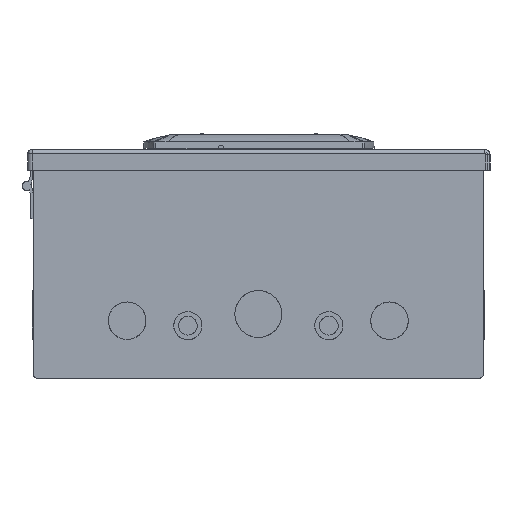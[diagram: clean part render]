
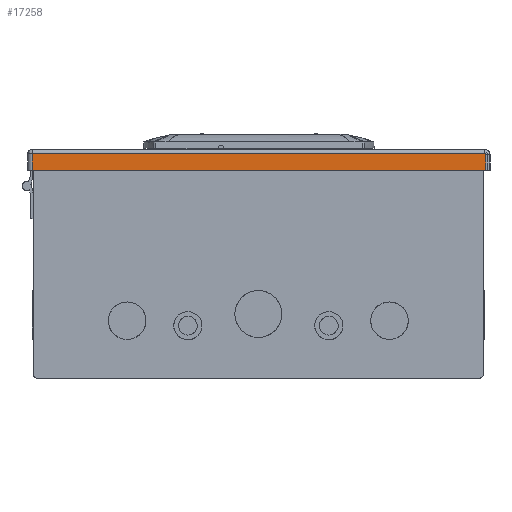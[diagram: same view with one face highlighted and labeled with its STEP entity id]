
A CAD part, front view. The second image highlights one B-rep face of the part: STEP entity #17258.
In plain terms, the highlighted planar face has unit normal (0, 1, 0).
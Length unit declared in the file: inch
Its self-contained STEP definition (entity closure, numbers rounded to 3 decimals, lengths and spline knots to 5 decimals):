
#469 = EDGE_CURVE ( 'NONE', #28884, #42171, #19894, .T. ) ;
#2453 = CARTESIAN_POINT ( 'NONE',  ( 3.52084, -6.17472, 2.93589 ) ) ;
#4203 = AXIS2_PLACEMENT_3D ( 'NONE', #48283, #10922, #7780 ) ;
#6337 = CARTESIAN_POINT ( 'NONE',  ( 3.53941, -6.17472, 2.9151 ) ) ;
#6415 = CARTESIAN_POINT ( 'NONE',  ( 3.53941, -6.17472, -3.05305 ) ) ;
#7776 = B_SPLINE_CURVE_WITH_KNOTS ( 'NONE', 3,
 ( #46610, #13329, #49485, #2453, #33152, #46147, #46374, #25318, #30128, #30809, #35568, #50547, #21730, #49023, #6337, #36070 ),
 .UNSPECIFIED., .F., .F.,
 ( 4, 1, 2, 2, 2, 1, 2, 2, 4 ),
 ( 0., 0.125, 0.1875, 0.25, 0.5, 0.625, 0.6875, 0.75, 1. ),
 .UNSPECIFIED. ) ;
#7780 = DIRECTION ( 'NONE',  ( 0., 0., 1. ) ) ;
#7801 = CARTESIAN_POINT ( 'NONE',  ( 3.53941, -6.17472, 2.48665 ) ) ;
#10858 = EDGE_CURVE ( 'NONE', #16771, #11222, #7776, .T. ) ;
#10922 = DIRECTION ( 'NONE',  ( 0., 1., 0. ) ) ;
#11222 = VERTEX_POINT ( 'NONE', #44177 ) ;
#12848 = LINE ( 'NONE', #18181, #34149 ) ;
#13329 = CARTESIAN_POINT ( 'NONE',  ( 3.51628, -6.17472, 2.93665 ) ) ;
#16399 = LINE ( 'NONE', #49140, #41965 ) ;
#16771 = VERTEX_POINT ( 'NONE', #33350 ) ;
#17258 = ADVANCED_FACE ( 'NONE', ( #36321 ), #39421, .T. ) ;
#17277 = EDGE_CURVE ( 'NONE', #11222, #28884, #32381, .T. ) ;
#18015 = DIRECTION ( 'NONE',  ( 1., 0., 0. ) ) ;
#18181 = CARTESIAN_POINT ( 'NONE',  ( -2.53057, -6.17472, 2.93665 ) ) ;
#19565 = DIRECTION ( 'NONE',  ( -1., 0., 0. ) ) ;
#19894 = LINE ( 'NONE', #26132, #20203 ) ;
#20203 = VECTOR ( 'NONE', #19565, 39.37008 ) ;
#21730 = CARTESIAN_POINT ( 'NONE',  ( 3.53739, -6.17472, 2.92177 ) ) ;
#22838 = EDGE_CURVE ( 'NONE', #42171, #50844, #16399, .T. ) ;
#23710 = ORIENTED_EDGE ( 'NONE', *, *, #469, .T. ) ;
#24637 = CARTESIAN_POINT ( 'NONE',  ( -8.56659, -6.17472, 2.48665 ) ) ;
#25318 = CARTESIAN_POINT ( 'NONE',  ( 3.52977, -6.17472, 2.93182 ) ) ;
#26132 = CARTESIAN_POINT ( 'NONE',  ( -2.53057, -6.17472, 2.48665 ) ) ;
#27150 = ORIENTED_EDGE ( 'NONE', *, *, #42518, .T. ) ;
#28884 = VERTEX_POINT ( 'NONE', #7801 ) ;
#30128 = CARTESIAN_POINT ( 'NONE',  ( 3.53338, -6.17472, 2.92822 ) ) ;
#30809 = CARTESIAN_POINT ( 'NONE',  ( 3.53496, -6.17472, 2.92627 ) ) ;
#32381 = LINE ( 'NONE', #6415, #51181 ) ;
#33152 = CARTESIAN_POINT ( 'NONE',  ( 3.52233, -6.17472, 2.93546 ) ) ;
#33286 = ORIENTED_EDGE ( 'NONE', *, *, #10858, .T. ) ;
#33350 = CARTESIAN_POINT ( 'NONE',  ( 3.51471, -6.17472, 2.93665 ) ) ;
#34149 = VECTOR ( 'NONE', #18015, 39.37008 ) ;
#35568 = CARTESIAN_POINT ( 'NONE',  ( 3.53623, -6.17472, 2.92411 ) ) ;
#36034 = ORIENTED_EDGE ( 'NONE', *, *, #17277, .T. ) ;
#36070 = CARTESIAN_POINT ( 'NONE',  ( 3.53941, -6.17472, 2.91195 ) ) ;
#36321 = FACE_OUTER_BOUND ( 'NONE', #36797, .T. ) ;
#36797 = EDGE_LOOP ( 'NONE', ( #36034, #23710, #48612, #27150, #33286 ) ) ;
#37321 = DIRECTION ( 'NONE',  ( 0., 0., -1. ) ) ;
#39318 = CARTESIAN_POINT ( 'NONE',  ( -8.56659, -6.17472, 2.93665 ) ) ;
#39421 = PLANE ( 'NONE',  #4203 ) ;
#41965 = VECTOR ( 'NONE', #47411, 39.37008 ) ;
#42171 = VERTEX_POINT ( 'NONE', #24637 ) ;
#42518 = EDGE_CURVE ( 'NONE', #50844, #16771, #12848, .T. ) ;
#44177 = CARTESIAN_POINT ( 'NONE',  ( 3.53941, -6.17472, 2.91195 ) ) ;
#46147 = CARTESIAN_POINT ( 'NONE',  ( 3.52301, -6.17472, 2.93523 ) ) ;
#46374 = CARTESIAN_POINT ( 'NONE',  ( 3.52696, -6.17472, 2.93367 ) ) ;
#46610 = CARTESIAN_POINT ( 'NONE',  ( 3.51471, -6.17472, 2.93665 ) ) ;
#47411 = DIRECTION ( 'NONE',  ( 0., 0., 1. ) ) ;
#48283 = CARTESIAN_POINT ( 'NONE',  ( -2.53057, -6.17472, -3.05305 ) ) ;
#48612 = ORIENTED_EDGE ( 'NONE', *, *, #22838, .T. ) ;
#49023 = CARTESIAN_POINT ( 'NONE',  ( 3.53883, -6.17472, 2.91813 ) ) ;
#49140 = CARTESIAN_POINT ( 'NONE',  ( -8.56659, -6.17472, -3.05305 ) ) ;
#49485 = CARTESIAN_POINT ( 'NONE',  ( 3.51859, -6.17472, 2.93644 ) ) ;
#50547 = CARTESIAN_POINT ( 'NONE',  ( 3.53701, -6.17472, 2.92261 ) ) ;
#50844 = VERTEX_POINT ( 'NONE', #39318 ) ;
#51181 = VECTOR ( 'NONE', #37321, 39.37008 ) ;
